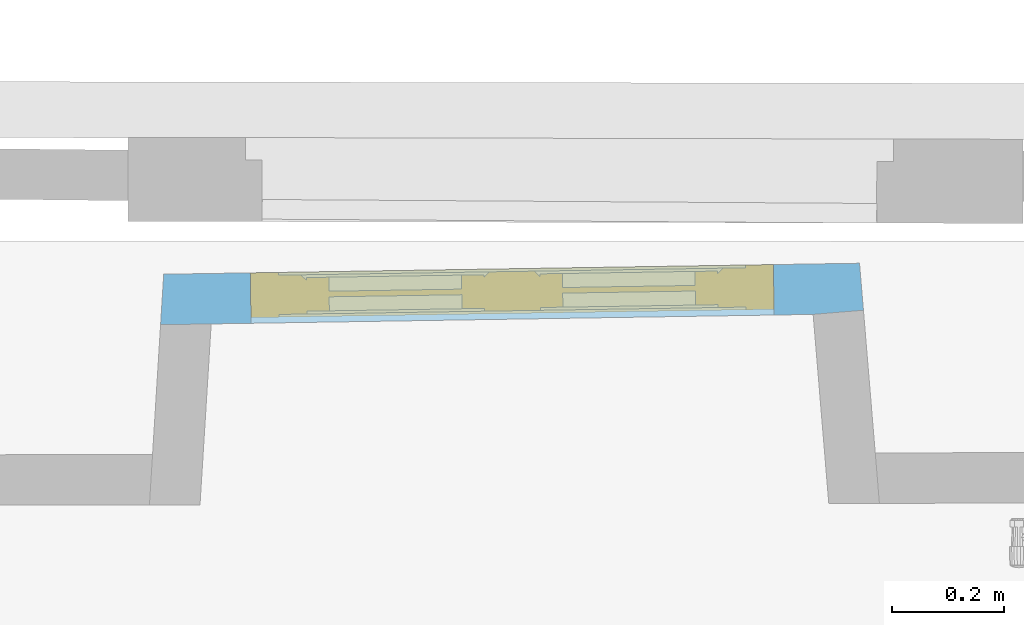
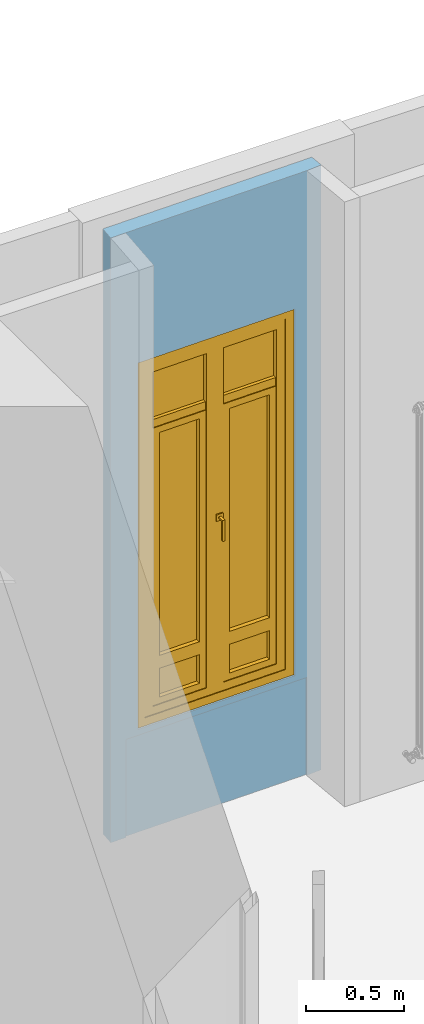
# One storey, part 44 of 66: 1 window, 2 openings, plus 1 element that does not belong to this part.
"""IFC2X3 building model written with IfcOpenShell, lengths in centimetres."""

from ifc_helpers import new_model, entity, si_unit, converted_unit, direction, frame, origin, origin_with_axes, place, context, subcontext, project, spatial, polyline, outline, extrude, faceted_brep, shape, source, transform, mapped, material, material_list, layer, layer_set, layer_usage, type_object, element, fill, save


model = new_model("IFC2X3")

# Units and contexts
model_context = context("Model", 3, precision=0.0001, world=origin(), true_north=direction((0.225632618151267, 0.974212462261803, 0.0)))
body_context = subcontext(model_context, "Body", "Model", "MODEL_VIEW")
footprint_context = subcontext(model_context, "FootPrint", "Model", "MODEL_VIEW")
profile_context = subcontext(model_context, "Profile", "Model", "MODEL_VIEW")
ifc_project = project(units=[si_unit("LENGTHUNIT", "METRE", prefix="CENTI"), si_unit("AREAUNIT", "SQUARE_METRE", prefix="CENTI"), si_unit("VOLUMEUNIT", "CUBIC_METRE", prefix="CENTI"), converted_unit("PLANEANGLEUNIT", "DEGREE", entity("IfcRatioMeasure", 0.0174532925), si_unit("PLANEANGLEUNIT", "RADIAN"), dimensions=[0, 0, 0, 0, 0, 0, 0])], contexts=[model_context])

# Site, building, storey
site_placement = place(None, origin_with_axes())
site = spatial("IfcSite", under=ifc_project, at=site_placement, Name="Default Site", CompositionType="ELEMENT")
building_placement = place(site_placement, origin_with_axes())
building = spatial("IfcBuilding", under=site, at=building_placement, Name="Default Building", CompositionType="ELEMENT")
storey_placement = place(building_placement, frame((0.0, 0.0, 477.795358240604), z_axis=(0.0, 0.0, 1.0), x_axis=(1.0, 0.0, 0.0)))
storey = spatial("IfcBuildingStorey", under=building, at=storey_placement, Name="Niveau 1", CompositionType="ELEMENT", Elevation=477.795358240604)

# Wall, openings, window
ifc_material_1 = material(Name="<aucun>")
ifc_layer = layer(ifc_material_1, 9.0)
ifc_layer_set = layer_set([ifc_layer], Name="default")
ifc_layer_usage = layer_usage(ifc_layer_set, "AXIS2", "POSITIVE", -4.5)
wall_type = type_object("IfcWallType", Name="default 90", PredefinedType="NOTDEFINED", material=ifc_layer_set)
wall_placement = place(storey_placement, frame((-572.667445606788, 583.635452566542, 0.0128503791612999), z_axis=(0.0, 0.0, 1.0), x_axis=(0.999874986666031, 0.0158117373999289, 0.0)))
wall = element("IfcWallStandardCase", 1, at=wall_placement, inside=storey, type_object=wall_type, material=ifc_layer_usage, Name="Enveloppe 598955", context=body_context, shape_type="SweptSolid", body=[
    extrude(outline(polyline([(-4.86319267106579, -4.4999999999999), (111.533863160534, -4.50000000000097), (120.51379938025, -3.89937907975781), (119.952008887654, 4.49999999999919), (-4.16393126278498, 4.50000000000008), (-4.86319267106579, -4.4999999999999)])), frame((0.0, 0.0, -8.88178419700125e-14), z_axis=(0.0, 0.0, 1.0), x_axis=(1.0, 0.0, 0.0)), (0.0, 0.0, 1.0), 376.102165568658),
])
opening_1_placement = place(wall_placement, frame((4.20605895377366, -2.27373675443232e-13, -1.78523862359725e-13), z_axis=(0.0, 0.0, 1.0), x_axis=(-1.0, 6.25888230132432e-15, 0.0)))
cartesian_point_1 = entity("IfcCartesianPoint", [0.0, 0.0, 60.9999999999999])
cartesian_point_2 = entity("IfcCartesianPoint", [-107.642500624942, -4.50000000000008])
element("IfcOpeningElement", 2, at=opening_1_placement, cuts=wall, Name="Baie 103653", ObjectType="Recess", shapes=[
    shape(body_context, "Body", "Brep", [faceted_brep([(-1.22123264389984e-05, 24.5000131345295, -1.92276753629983e-05), (-107.642482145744, 24.5000131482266, -1.92276753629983e-05), (-107.642482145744, 24.5000131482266, 60.9999941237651), (-1.22123264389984e-05, 24.5000131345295, 60.9999941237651), (-1.22149986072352e-05, 3.50000628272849, 60.9999941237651), (-1.22149986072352e-05, 3.50000628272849, -1.92276753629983e-05), (1.05937600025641e-05, 3.50000628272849, -1.92276753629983e-05), (-107.642507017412, 3.49999895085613, -1.92276753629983e-05), (-107.642482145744, 24.5000050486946, -1.92276753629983e-05), (-107.642482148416, 3.49999895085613, -1.92276753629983e-05), (-107.642482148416, 3.49999895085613, 60.9999941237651), (-107.642482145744, 24.5000050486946, 60.9999941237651), (-107.642507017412, 3.49999895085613, 60.9999941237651), (1.05937600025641e-05, 3.50000628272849, 60.9999941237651), (1.05937600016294e-05, 3.49999893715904, -1.92276753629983e-05), (1.05937600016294e-05, 3.49999893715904, 60.9999941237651)], [[[0, 1, 2, 3]], [[3, 4, 5, 0]], [[0, 6, 7, 8]], [[8, 9, 10, 11]], [[11, 12, 13, 3]], [[12, 7, 14, 15]]])]),
    shape(profile_context, "Profile", "GeometricCurveSet", [entity("IfcGeometricCurveSet", [entity("IfcPolyline", [cartesian_point_1, entity("IfcCartesianPoint", [0.0, 0.0, -8.88178419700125e-14]), entity("IfcCartesianPoint", [-107.642500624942, -8.88178419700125e-14, -8.88178419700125e-14]), entity("IfcCartesianPoint", [-107.642500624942, -8.88178419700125e-14, 60.9999999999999]), cartesian_point_1])])]),
    shape(footprint_context, "FootPrint", "GeometricCurveSet", [entity("IfcGeometricCurveSet", [entity("IfcPolyline", [cartesian_point_2, entity("IfcCartesianPoint", [8.88178419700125e-14, -4.50000000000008]), entity("IfcCartesianPoint", [0.0, 4.49999999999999]), entity("IfcCartesianPoint", [-107.642500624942, 4.49999999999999]), cartesian_point_2])])]),
])
opening_2_placement = place(wall_placement, frame((11.2718874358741, -1.13686837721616e-13, 64.5871496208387), z_axis=(0.0, 0.0, 1.0), x_axis=(-1.0, 6.25888230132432e-15, 0.0)))
cartesian_point_3 = entity("IfcCartesianPoint", [0.0, 8.88178419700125e-14, 228.0])
cartesian_point_4 = entity("IfcCartesianPoint", [-93.3169181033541, -4.49999999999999])
opening_2 = element("IfcOpeningElement", 3, at=opening_2_placement, cuts=wall, Name="4294966423_11", ObjectType="Opening", shapes=[
    shape(body_context, "Body", "SweptSolid", [extrude(outline(polyline([(-8.88178419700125e-14, 228.0), (-8.88178419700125e-14, 0.0), (93.3169181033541, 0.0), (93.3169181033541, 228.0), (-8.88178419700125e-14, 228.0)])), frame((0.0, -14.5, 0.0), z_axis=(0.0, 1.0, 0.0), x_axis=(-1.0, 0.0, 0.0)), (0.0, 0.0, 1.0), 29.0)]),
    shape(profile_context, "Profile", "GeometricCurveSet", [entity("IfcGeometricCurveSet", [entity("IfcPolyline", [cartesian_point_3, entity("IfcCartesianPoint", [0.0, 8.88178419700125e-14, 0.0]), entity("IfcCartesianPoint", [-93.3169181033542, 0.0, 0.0]), entity("IfcCartesianPoint", [-93.3169181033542, 0.0, 228.0]), cartesian_point_3])])]),
    shape(footprint_context, "FootPrint", "GeometricCurveSet", [entity("IfcGeometricCurveSet", [entity("IfcPolyline", [cartesian_point_4, entity("IfcCartesianPoint", [8.88178419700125e-14, -4.4999999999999]), entity("IfcCartesianPoint", [8.88178419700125e-14, 4.50000000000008]), entity("IfcCartesianPoint", [-93.3169181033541, 4.49999999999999]), cartesian_point_4])])]),
])
ifc_material_2 = material(Name="Transparent")
ifc_material_3 = material(Name="Bleu france")
ifc_material_4 = material(Name="Aluminium satiné")
ifc_material_list = material_list([ifc_material_2, ifc_material_3, ifc_material_4])
window_style = type_object("IfcWindowStyle", Name="FN[R] 2VB[2V] MM", ConstructionType="NOTDEFINED", OperationType="NOTDEFINED", ParameterTakesPrecedence=False, Sizeable=False, material=ifc_material_list)
shared_shape = source(origin_with_axes(), body_context, "Body", "Brep", [
    faceted_brep([(-41.6584581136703, 223.000001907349, -3.99999991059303), (-41.6584581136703, 223.000001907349, 3.99999991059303), (-41.6584581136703, 5.00000007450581, 3.99999991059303), (-41.6584581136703, 5.00000007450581, -3.99999991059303), (-46.6584593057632, 227.999997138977, 3.99999991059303), (-46.6584593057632, 8.88178419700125e-14, 3.99999991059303), (-46.6584593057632, 227.999997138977, -3.99999991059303), (-46.6584593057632, 8.88178419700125e-14, -3.99999991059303), (41.6584581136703, 5.0000000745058, 3.99999991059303), (41.6584581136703, 5.0000000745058, -3.99999991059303), (46.6584593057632, 8.88178419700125e-14, 3.99999991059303), (41.6584581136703, 5.00000007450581, 3.99999991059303), (46.6584593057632, 8.88178419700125e-14, -3.99999991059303), (41.6584581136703, 5.00000007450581, -3.99999991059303), (41.6584581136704, 223.000001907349, 3.99999991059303), (41.6584581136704, 223.000001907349, -3.99999991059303), (46.6584593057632, 227.999997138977, 3.99999991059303), (41.6584581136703, 223.000001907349, 3.99999991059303), (46.6584593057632, 227.999997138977, -3.99999991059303), (41.6584581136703, 223.000001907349, -3.99999991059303)], [[[0, 1, 2, 3]], [[1, 4, 5, 2]], [[4, 6, 7, 5]], [[6, 0, 3, 7]], [[3, 2, 8, 9]], [[2, 5, 10, 11]], [[5, 7, 12, 10]], [[7, 3, 13, 12]], [[13, 11, 14, 15]], [[11, 10, 16, 17]], [[10, 12, 18, 16]], [[12, 13, 19, 18]], [[19, 17, 1, 0]], [[17, 16, 4, 1]], [[16, 18, 6, 4]], [[18, 19, 0, 6]]]),
    faceted_brep([(-37.6584589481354, 219.000005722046, -3.50000001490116), (-36.6584594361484, 218.00000667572, -2.50000050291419), (-36.6584594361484, 10.0000001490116, -2.50000050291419), (-37.6584589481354, 9.00000035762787, -3.50000001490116), (-36.6584599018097, 218.00000667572, -2.5000000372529), (-36.6584599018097, 218.00000667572, 3.50000001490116), (-36.6584599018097, 10.0000001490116, 3.50000001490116), (-36.6584599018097, 10.0000001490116, -2.5000000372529), (-41.6584581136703, 223.000001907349, 3.50000001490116), (-41.6584581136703, 5.00000007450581, 3.50000001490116), (-41.6584581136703, 223.000001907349, -3.50000001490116), (-41.6584581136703, 5.00000007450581, -3.50000001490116), (-36.6584599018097, 10.0000002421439, -2.50000013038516), (-5.00000007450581, 10.0000002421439, -2.50000013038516), (-3.99999991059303, 9.00000035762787, -3.50000001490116), (-5.00000007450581, 10.0000001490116, 3.50000001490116), (-5.00000007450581, 10.0000001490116, -2.5000000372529), (-7.21644966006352e-14, 5.00000007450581, 3.50000001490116), (-7.21644966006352e-14, 5.00000007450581, -3.50000001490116), (-4.99999998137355, 10.0000001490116, -2.49999994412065), (-4.99999998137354, 218.00000667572, -2.49999994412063), (-3.99999991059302, 219.000005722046, -3.50000001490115), (-5.00000007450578, 218.00000667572, 3.50000001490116), (-5.00000007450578, 218.00000667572, -2.5000000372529), (-6.10622663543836e-14, 223.000001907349, 3.50000001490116), (-5.00000007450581, 218.00000667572, 3.50000001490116), (-6.1062266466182e-14, 223.000001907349, -3.50000001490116), (-6.1062266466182e-14, 223.000001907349, 3.50000001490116), (-3.99999991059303, 219.000005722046, -3.50000001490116), (-6.10622663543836e-14, 223.000001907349, -3.50000001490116), (-5.00000007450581, 218.000006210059, -2.50000050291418), (-36.6584599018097, 218.000006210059, -2.50000050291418), (-5.00000007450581, 218.00000667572, -2.5000000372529)], [[[0, 1, 2, 3]], [[4, 5, 6, 7]], [[5, 8, 9, 6]], [[8, 10, 11, 9]], [[10, 0, 3, 11]], [[3, 12, 13, 14]], [[7, 6, 15, 16]], [[6, 9, 17, 15]], [[9, 11, 18, 17]], [[11, 3, 14, 18]], [[14, 19, 20, 21]], [[16, 15, 22, 23]], [[15, 17, 24, 25]], [[17, 18, 26, 27]], [[18, 14, 28, 29]], [[28, 30, 31, 0]], [[32, 25, 5, 4]], [[25, 24, 8, 5]], [[24, 29, 10, 8]], [[29, 28, 0, 10]]]),
    faceted_brep([(-5.00000007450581, 218.00000667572, -0.499999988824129), (-5.00000007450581, 187.549996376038, -0.499999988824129), (-36.6584599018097, 187.549996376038, -0.499999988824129), (-36.6584599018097, 218.00000667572, -0.499999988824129), (-36.6584599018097, 218.00000667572, 0.499999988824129), (-36.6584599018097, 187.549996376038, 0.499999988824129), (-5.00000007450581, 187.549996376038, 0.499999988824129), (-5.00000007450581, 218.00000667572, 0.499999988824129)], [[[0, 1, 2, 3]], [[4, 5, 6, 7]], [[3, 2, 5, 4]], [[2, 1, 6, 5]], [[1, 0, 7, 6]], [[0, 3, 4, 7]]]),
    faceted_brep([(-5.00000007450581, 182.550001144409, 2.5000000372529), (-5.00000007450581, 182.550001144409, -2.5000000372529), (-5.00000007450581, 187.549996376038, -2.5000000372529), (-5.00000007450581, 187.549996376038, 2.5000000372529), (-36.6584599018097, 187.549996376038, 2.5000000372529), (-36.6584599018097, 187.549996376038, -2.5000000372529), (-36.6584599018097, 182.550001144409, -2.5000000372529), (-36.6584599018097, 182.550001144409, 2.5000000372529)], [[[0, 1, 2, 3]], [[4, 5, 6, 7]], [[3, 2, 5, 4]], [[2, 1, 6, 5]], [[1, 0, 7, 6]], [[0, 3, 4, 7]]]),
    faceted_brep([(-32.6584577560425, 178.550004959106, -2.99999993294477), (-32.6584577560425, 178.550004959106, 2.99999993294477), (-32.6584577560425, 39.8824989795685, 2.99999993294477), (-32.6584577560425, 39.8824989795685, -2.99999993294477), (-36.6584599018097, 182.550001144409, 2.99999993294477), (-36.6584599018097, 35.8824998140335, 2.99999993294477), (-36.6584599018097, 182.550001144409, -2.99999993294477), (-36.6584599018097, 35.8824998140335, -2.99999993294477), (-9.00000035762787, 39.8824989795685, 2.99999993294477), (-9.00000035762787, 39.8824989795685, -2.99999993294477), (-5.00000007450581, 35.8824998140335, 2.99999993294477), (-5.00000007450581, 35.8824998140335, -2.99999993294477), (-9.00000035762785, 178.550004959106, 2.99999993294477), (-9.00000035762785, 178.550004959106, -2.99999993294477), (-5.00000007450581, 182.550001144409, 2.99999993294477), (-9.00000035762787, 178.550004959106, 2.99999993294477), (-5.0000000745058, 182.550001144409, -2.99999993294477), (-5.0000000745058, 182.550001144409, 2.99999993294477), (-9.00000035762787, 178.550004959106, -2.99999993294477), (-5.00000007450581, 182.550001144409, -2.99999993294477)], [[[0, 1, 2, 3]], [[1, 4, 5, 2]], [[4, 6, 7, 5]], [[6, 0, 3, 7]], [[3, 2, 8, 9]], [[2, 5, 10, 8]], [[5, 7, 11, 10]], [[7, 3, 9, 11]], [[9, 8, 12, 13]], [[8, 10, 14, 15]], [[10, 11, 16, 17]], [[11, 9, 18, 19]], [[18, 15, 1, 0]], [[15, 14, 4, 1]], [[14, 19, 6, 4]], [[19, 18, 0, 6]]]),
    faceted_brep([(-9.00000035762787, 178.550004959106, -0.499999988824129), (-9.00000035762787, 39.8824989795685, -0.499999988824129), (-32.6584577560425, 39.8824989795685, -0.499999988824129), (-32.6584577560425, 178.550004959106, -0.499999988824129), (-32.6584577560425, 178.550004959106, 0.499999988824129), (-32.6584577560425, 39.8824989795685, 0.499999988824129), (-9.00000035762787, 39.8824989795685, 0.499999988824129), (-9.00000035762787, 178.550004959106, 0.499999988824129), (-9.00000035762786, 178.550004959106, -0.499999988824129), (-9.00000035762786, 178.550004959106, 0.499999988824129)], [[[0, 1, 2, 3]], [[4, 5, 6, 7]], [[3, 2, 5, 4]], [[2, 1, 6, 5]], [[1, 8, 9, 6]], [[0, 3, 4, 7]]]),
    faceted_brep([(-32.6584577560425, 31.8825006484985, -2.99999993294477), (-32.6584577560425, 31.8825006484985, 2.99999993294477), (-32.6584577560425, 14.0000000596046, 2.99999993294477), (-32.6584577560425, 14.0000000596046, -2.99999993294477), (-36.6584599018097, 35.8824998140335, 2.99999993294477), (-36.6584599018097, 10.0000001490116, 2.99999993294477), (-36.6584599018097, 35.8824998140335, -2.99999993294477), (-36.6584599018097, 10.0000001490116, -2.99999993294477), (-9.00000035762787, 14.0000000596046, 2.99999993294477), (-9.00000035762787, 14.0000000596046, -2.99999993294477), (-5.00000007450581, 10.0000001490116, 2.99999993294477), (-5.00000007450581, 10.0000001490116, -2.99999993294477), (-9.00000035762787, 31.8825006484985, 2.99999993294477), (-9.00000035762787, 31.8825006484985, -2.99999993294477), (-5.00000007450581, 35.8824998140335, 2.99999993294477), (-5.00000007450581, 35.8824998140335, -2.99999993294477)], [[[0, 1, 2, 3]], [[1, 4, 5, 2]], [[4, 6, 7, 5]], [[6, 0, 3, 7]], [[3, 2, 8, 9]], [[2, 5, 10, 8]], [[5, 7, 11, 10]], [[7, 3, 9, 11]], [[9, 8, 12, 13]], [[8, 10, 14, 12]], [[10, 11, 15, 14]], [[11, 9, 13, 15]], [[13, 12, 1, 0]], [[12, 14, 4, 1]], [[14, 15, 6, 4]], [[15, 13, 0, 6]]]),
    faceted_brep([(-9.00000035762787, 31.8825006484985, -0.499999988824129), (-9.00000035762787, 14.0000000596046, -0.499999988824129), (-32.6584577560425, 14.0000000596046, -0.499999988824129), (-32.6584577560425, 31.8825006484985, -0.499999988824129), (-32.6584577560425, 31.8825006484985, 0.499999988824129), (-32.6584577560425, 14.0000000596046, 0.499999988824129), (-9.00000035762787, 14.0000000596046, 0.499999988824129), (-9.00000035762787, 31.8825006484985, 0.499999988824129)], [[[0, 1, 2, 3]], [[4, 5, 6, 7]], [[3, 2, 5, 4]], [[2, 1, 6, 5]], [[1, 0, 7, 6]], [[0, 3, 4, 7]]]),
    faceted_brep([(3.99999991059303, 219.000005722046, -3.50000001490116), (4.99999998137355, 218.00000667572, -2.49999994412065), (4.99999998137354, 10.0000001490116, -2.49999994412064), (3.99999991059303, 9.00000035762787, -3.50000001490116), (5.00000007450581, 218.00000667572, -2.5000000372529), (5.00000007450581, 218.00000667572, 3.50000001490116), (5.0000000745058, 10.0000001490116, 3.50000001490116), (5.0000000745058, 10.0000001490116, -2.5000000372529), (-6.10622663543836e-14, 223.000001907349, 3.50000001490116), (-7.21644966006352e-14, 5.00000007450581, 3.50000001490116), (5.00000007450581, 10.0000001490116, 3.50000001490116), (-6.10622663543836e-14, 223.000001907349, -3.50000001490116), (-7.21644964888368e-14, 5.00000007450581, -3.50000001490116), (-7.21644964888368e-14, 5.00000007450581, 3.50000001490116), (-7.21644966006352e-14, 5.00000007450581, -3.50000001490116), (5.00000007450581, 10.0000002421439, -2.50000013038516), (36.6584599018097, 10.0000002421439, -2.50000013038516), (37.6584589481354, 9.00000035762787, -3.50000001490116), (5.00000007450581, 10.0000001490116, -2.5000000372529), (36.6584599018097, 10.0000001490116, 3.50000001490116), (36.6584599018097, 10.0000001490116, -2.5000000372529), (41.6584581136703, 5.00000007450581, 3.50000001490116), (41.6584581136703, 5.00000007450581, -3.50000001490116), (36.6584594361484, 10.0000001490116, -2.50000050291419), (36.6584594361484, 218.00000667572, -2.50000050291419), (37.6584589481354, 219.000005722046, -3.50000001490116), (36.6584599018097, 218.00000667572, 3.50000001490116), (36.6584599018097, 218.00000667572, -2.5000000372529), (41.6584581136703, 223.000001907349, 3.50000001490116), (41.6584581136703, 223.000001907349, -3.50000001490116), (36.6584599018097, 218.000006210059, -2.50000050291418), (5.00000007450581, 218.000006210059, -2.50000050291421), (3.99999991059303, 219.000005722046, -3.50000001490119)], [[[0, 1, 2, 3]], [[4, 5, 6, 7]], [[5, 8, 9, 10]], [[8, 11, 12, 13]], [[11, 0, 3, 14]], [[3, 15, 16, 17]], [[18, 10, 19, 20]], [[10, 9, 21, 19]], [[9, 14, 22, 21]], [[14, 3, 17, 22]], [[17, 23, 24, 25]], [[20, 19, 26, 27]], [[19, 21, 28, 26]], [[21, 22, 29, 28]], [[22, 17, 25, 29]], [[25, 30, 31, 32]], [[27, 26, 5, 4]], [[26, 28, 8, 5]], [[28, 29, 11, 8]], [[29, 25, 0, 11]]]),
    faceted_brep([(4.50000017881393, 115.99999666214, 3.50000001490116), (4.50000017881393, 112.000000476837, 3.50000001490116), (0.499999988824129, 112.000000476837, 3.50000001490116), (0.499999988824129, 115.99999666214, 3.50000001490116), (0.499999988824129, 115.99999666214, 4.30000014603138), (0.499999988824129, 112.000000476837, 4.30000014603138), (4.50000017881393, 112.000000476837, 4.30000014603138), (4.50000017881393, 115.99999666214, 4.30000014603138)], [[[0, 1, 2, 3]], [[4, 5, 6, 7]], [[3, 2, 5, 4]], [[2, 1, 6, 5]], [[1, 0, 7, 6]], [[0, 3, 4, 7]]]),
    faceted_brep([(3.24999988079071, 114.499998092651, 4.30000014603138), (3.24999988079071, 113.499999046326, 4.30000014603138), (1.75000000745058, 113.499999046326, 4.30000014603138), (1.75000000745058, 114.499998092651, 4.30000014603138), (1.75000000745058, 114.499998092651, 8.29999968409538), (1.75000000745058, 113.499998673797, 7.30000026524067), (3.24999988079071, 113.499998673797, 7.30000026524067), (3.24999988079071, 114.499998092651, 8.29999968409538), (1.75000000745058, 113.499999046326, 7.29999989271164), (3.24999988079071, 113.499999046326, 7.29999989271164)], [[[0, 1, 2, 3]], [[4, 5, 6, 7]], [[3, 2, 8, 4]], [[2, 1, 9, 8]], [[1, 0, 7, 9]], [[0, 3, 4, 7]]]),
    faceted_brep([(3.24999988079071, 114.499998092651, 8.29999968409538), (3.24999988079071, 113.499998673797, 7.30000026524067), (1.75000000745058, 113.499998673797, 7.30000026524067), (1.75000000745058, 114.499998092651, 8.29999968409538), (1.75000000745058, 101.499998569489, 8.29999968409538), (1.75000000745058, 101.499998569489, 7.29999989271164), (3.24999988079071, 101.499998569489, 7.29999989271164), (3.24999988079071, 101.499998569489, 8.29999968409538), (1.75000000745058, 113.499999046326, 7.29999989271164), (3.24999988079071, 113.499999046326, 7.29999989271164)], [[[0, 1, 2, 3]], [[4, 5, 6, 7]], [[3, 8, 5, 4]], [[8, 9, 6, 5]], [[9, 0, 7, 6]], [[0, 3, 4, 7]]]),
    faceted_brep([(36.6584599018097, 218.00000667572, -0.499999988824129), (36.6584599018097, 187.549996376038, -0.499999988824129), (5.00000007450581, 187.549996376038, -0.499999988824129), (5.00000007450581, 218.00000667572, -0.499999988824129), (5.00000007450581, 218.00000667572, 0.499999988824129), (5.00000007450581, 187.549996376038, 0.499999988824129), (36.6584599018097, 187.549996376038, 0.499999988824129), (36.6584599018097, 218.00000667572, 0.499999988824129)], [[[0, 1, 2, 3]], [[4, 5, 6, 7]], [[3, 2, 5, 4]], [[2, 1, 6, 5]], [[1, 0, 7, 6]], [[0, 3, 4, 7]]]),
    faceted_brep([(36.6584599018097, 182.550001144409, 2.5000000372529), (36.6584599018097, 182.550001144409, -2.5000000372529), (36.6584599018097, 187.549996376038, -2.5000000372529), (36.6584599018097, 187.549996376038, 2.5000000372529), (5.00000007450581, 187.549996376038, 2.5000000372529), (5.00000007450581, 187.549996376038, -2.5000000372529), (5.00000007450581, 182.550001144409, -2.5000000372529), (5.00000007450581, 182.550001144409, 2.5000000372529)], [[[0, 1, 2, 3]], [[4, 5, 6, 7]], [[3, 2, 5, 4]], [[2, 1, 6, 5]], [[1, 0, 7, 6]], [[0, 3, 4, 7]]]),
    faceted_brep([(9.00000035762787, 178.550004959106, -2.99999993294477), (9.00000035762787, 178.550004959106, 2.99999993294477), (9.00000035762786, 39.8824989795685, 2.99999993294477), (9.00000035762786, 39.8824989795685, -2.99999993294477), (5.00000007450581, 182.550001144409, 2.99999993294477), (5.00000007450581, 35.8824998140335, 2.99999993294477), (9.00000035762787, 39.8824989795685, 2.99999993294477), (5.00000007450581, 182.550001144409, -2.99999993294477), (5.0000000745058, 35.8824998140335, -2.99999993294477), (5.0000000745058, 35.8824998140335, 2.99999993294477), (9.00000035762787, 39.8824989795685, -2.99999993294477), (5.00000007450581, 35.8824998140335, -2.99999993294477), (32.6584577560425, 39.8824989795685, 2.99999993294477), (32.6584577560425, 39.8824989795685, -2.99999993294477), (36.6584599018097, 35.8824998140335, 2.99999993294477), (36.6584599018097, 35.8824998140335, -2.99999993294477), (32.6584577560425, 178.550004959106, 2.99999993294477), (32.6584577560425, 178.550004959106, -2.99999993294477), (36.6584599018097, 182.550001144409, 2.99999993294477), (36.6584599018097, 182.550001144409, -2.99999993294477)], [[[0, 1, 2, 3]], [[1, 4, 5, 6]], [[4, 7, 8, 9]], [[7, 0, 10, 11]], [[10, 6, 12, 13]], [[6, 5, 14, 12]], [[5, 11, 15, 14]], [[11, 10, 13, 15]], [[13, 12, 16, 17]], [[12, 14, 18, 16]], [[14, 15, 19, 18]], [[15, 13, 17, 19]], [[17, 16, 1, 0]], [[16, 18, 4, 1]], [[18, 19, 7, 4]], [[19, 17, 0, 7]]]),
    faceted_brep([(32.6584577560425, 178.550004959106, -0.499999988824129), (32.6584577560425, 39.8824989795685, -0.499999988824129), (9.00000035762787, 39.8824989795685, -0.499999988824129), (9.00000035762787, 178.550004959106, -0.499999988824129), (9.00000035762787, 178.550004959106, 0.499999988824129), (9.00000035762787, 39.8824989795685, 0.499999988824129), (32.6584577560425, 39.8824989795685, 0.499999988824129), (32.6584577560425, 178.550004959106, 0.499999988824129)], [[[0, 1, 2, 3]], [[4, 5, 6, 7]], [[3, 2, 5, 4]], [[2, 1, 6, 5]], [[1, 0, 7, 6]], [[0, 3, 4, 7]]]),
    faceted_brep([(9.00000035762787, 31.8825006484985, -2.99999993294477), (9.00000035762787, 31.8825006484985, 2.99999993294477), (9.00000035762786, 14.0000000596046, 2.99999993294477), (9.00000035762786, 14.0000000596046, -2.99999993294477), (5.00000007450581, 35.8824998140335, 2.99999993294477), (5.00000007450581, 10.0000001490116, 2.99999993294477), (9.00000035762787, 14.0000000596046, 2.99999993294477), (5.00000007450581, 35.8824998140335, -2.99999993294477), (5.0000000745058, 10.0000001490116, -2.99999993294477), (5.0000000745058, 10.0000001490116, 2.99999993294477), (9.00000035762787, 14.0000000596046, -2.99999993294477), (5.00000007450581, 10.0000001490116, -2.99999993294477), (32.6584577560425, 14.0000000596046, 2.99999993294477), (32.6584577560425, 14.0000000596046, -2.99999993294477), (36.6584599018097, 10.0000001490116, 2.99999993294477), (36.6584599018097, 10.0000001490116, -2.99999993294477), (32.6584577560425, 31.8825006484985, 2.99999993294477), (32.6584577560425, 31.8825006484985, -2.99999993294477), (36.6584599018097, 35.8824998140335, 2.99999993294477), (36.6584599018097, 35.8824998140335, -2.99999993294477)], [[[0, 1, 2, 3]], [[1, 4, 5, 6]], [[4, 7, 8, 9]], [[7, 0, 10, 11]], [[10, 6, 12, 13]], [[6, 5, 14, 12]], [[5, 11, 15, 14]], [[11, 10, 13, 15]], [[13, 12, 16, 17]], [[12, 14, 18, 16]], [[14, 15, 19, 18]], [[15, 13, 17, 19]], [[17, 16, 1, 0]], [[16, 18, 4, 1]], [[18, 19, 7, 4]], [[19, 17, 0, 7]]]),
    faceted_brep([(32.6584577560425, 31.8825006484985, -0.499999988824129), (32.6584577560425, 14.0000000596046, -0.499999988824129), (9.00000035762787, 14.0000000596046, -0.499999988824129), (9.00000035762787, 31.8825006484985, -0.499999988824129), (9.00000035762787, 31.8825006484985, 0.499999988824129), (9.00000035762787, 14.0000000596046, 0.499999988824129), (32.6584577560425, 14.0000000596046, 0.499999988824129), (32.6584577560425, 31.8825006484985, 0.499999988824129), (9.00000035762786, 14.0000000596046, -0.499999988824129), (9.00000035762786, 14.0000000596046, 0.499999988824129)], [[[0, 1, 2, 3]], [[4, 5, 6, 7]], [[3, 8, 9, 4]], [[2, 1, 6, 5]], [[1, 0, 7, 6]], [[0, 3, 4, 7]]]),
])
window_placement = place(opening_2_placement, frame((-93.3169181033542, -4.5, -1.4210854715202e-14), z_axis=(0.0, 0.0, 1.0), x_axis=(1.0, 0.0, 0.0)))
window = element("IfcWindow", 4, at=window_placement, inside=storey, type_object=window_style, material=ifc_material_list, Name="Fenêtre 103652", OverallHeight=228.0, OverallWidth=93.3169181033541, context=body_context, shape_type="MappedRepresentation", body=[
    mapped(shared_shape, transform((46.6584590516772, 4.00000000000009, 0.0), x_axis=(-1.0, 0.0, 0.0), y_axis=(0.0, 0.0, 1.0), z_axis=(0.0, 1.0, 0.0), scale=1.0, scale2=1.0, scale3=1.0, uniform=False)),
])
fill(opening_2, window)

save(model, "model.ifc")
